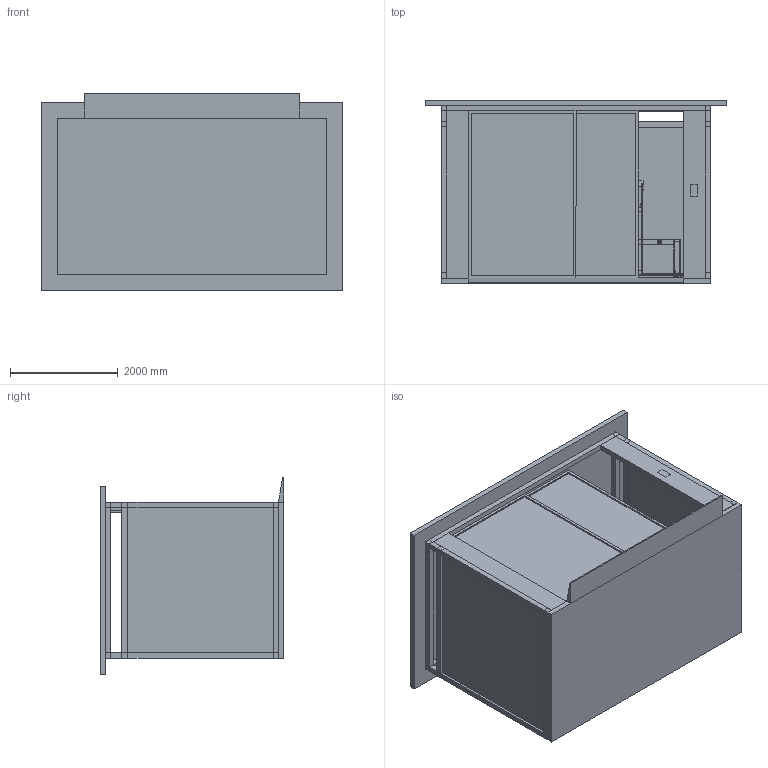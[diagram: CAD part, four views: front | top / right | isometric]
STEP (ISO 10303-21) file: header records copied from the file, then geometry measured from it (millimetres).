
FILE_DESCRIPTION (( 'STEP AP203' ), '1' );
FILE_NAME ('WYE1810D.STEP', '2025-10-06T08:05:29', ( '' ), ( '' ), 'SwSTEP 2.0', 'SolidWorks 2025', '' );
FILE_SCHEMA (( 'CONFIG_CONTROL_DESIGN' ));
Length unit declared in the file: centimetre
Products named in the file (11): WYE1810D-TOUCHSCREEN; WYE1810D-CABLE; WYE1810D; WYE1810D-FLOOR; WYE1810D-ROOF; WYE1810D-LIGHT; WYE1810D-BIKE; WYE1810D-WALL; WYE1810D-CONNECTOR; WYE1810D-DOOR-1; WYE1810D-STEEL
Assembly tree (11 placements, depth 2):
  WYE1810D
    WYE1810D-BIKE
    WYE1810D-CABLE
    WYE1810D-CONNECTOR
    WYE1810D-DOOR-1  x2
    WYE1810D-FLOOR
    WYE1810D-LIGHT
    WYE1810D-ROOF
    WYE1810D-STEEL
    WYE1810D-TOUCHSCREEN
    WYE1810D-WALL
Bounding box: 5600 x 3415.03 x 3658.11 mm (x, y, z)
Volume: 4874550855.4 mm3; surface area: 198158788.2 mm2
Topology: 173 solids, 181 shells, 2071 faces, 4741 edges, 3032 vertices
Faces by surface type: plane 1396, bspline 344, cylinder 331
Entity records: 64073 total; most frequent: CARTESIAN_POINT 28249, ORIENTED_EDGE 9266, EDGE_CURVE 4633, B_SPLINE_CURVE_WITH_KNOTS 3806, DIRECTION 3529, VERTEX_POINT 3008, EDGE_LOOP 2145, FACE_OUTER_BOUND 2055
